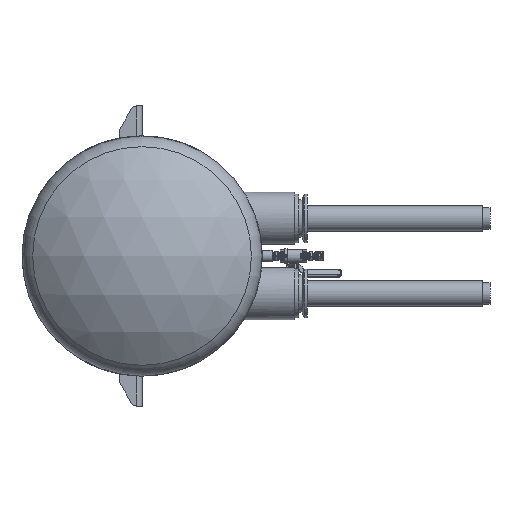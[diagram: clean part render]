
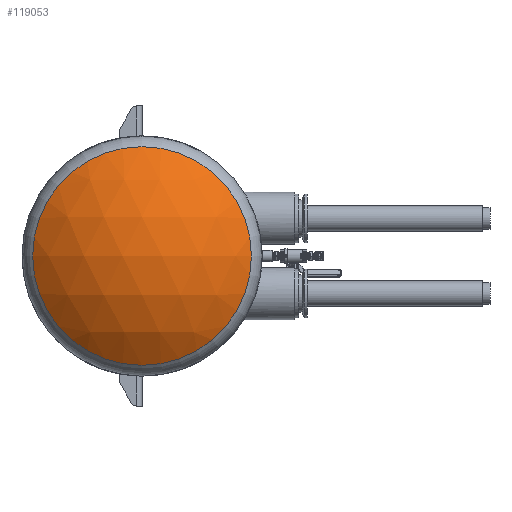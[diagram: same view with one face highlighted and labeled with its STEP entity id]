
A CAD part, left-side view. The second image highlights one B-rep face of the part: STEP entity #119053.
In plain terms, the highlighted spherical face has radius 287.38 mm.
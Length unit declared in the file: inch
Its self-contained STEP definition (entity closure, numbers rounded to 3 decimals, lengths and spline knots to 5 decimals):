
#5764 = EDGE_CURVE ( 'NONE', #24129, #24129, #113844, .T. ) ;
#18461 = EDGE_LOOP ( 'NONE', ( #37907 ) ) ;
#24129 = VERTEX_POINT ( 'NONE', #39747 ) ;
#26243 = DIRECTION ( 'NONE',  ( 0., 0., 1. ) ) ;
#37907 = ORIENTED_EDGE ( 'NONE', *, *, #5764, .F. ) ;
#39747 = CARTESIAN_POINT ( 'NONE',  ( -43.83975, 0., -7.28836 ) ) ;
#55418 = CARTESIAN_POINT ( 'NONE',  ( -43.83975, 0., 0. ) ) ;
#57953 = DIRECTION ( 'NONE',  ( 1., 0., 0. ) ) ;
#61033 = AXIS2_PLACEMENT_3D ( 'NONE', #55418, #57953, #161516 ) ;
#92383 = FACE_OUTER_BOUND ( 'NONE', #18461, .T. ) ;
#97077 = AXIS2_PLACEMENT_3D ( 'NONE', #145406, #26243, #168906 ) ;
#113844 = CIRCLE ( 'NONE', #61033, 7.28836 ) ;
#119053 = ADVANCED_FACE ( 'NONE', ( #92383 ), #131513, .T. ) ;
#131513 = SPHERICAL_SURFACE ( 'NONE', #97077, 11.31418 ) ;
#145406 = CARTESIAN_POINT ( 'NONE',  ( -35.18582, 0., 0. ) ) ;
#161516 = DIRECTION ( 'NONE',  ( 0., 0., -1. ) ) ;
#168906 = DIRECTION ( 'NONE',  ( 0., 1., 0. ) ) ;
